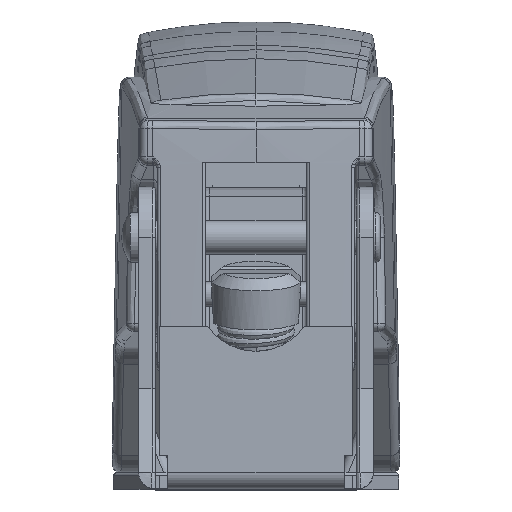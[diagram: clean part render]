
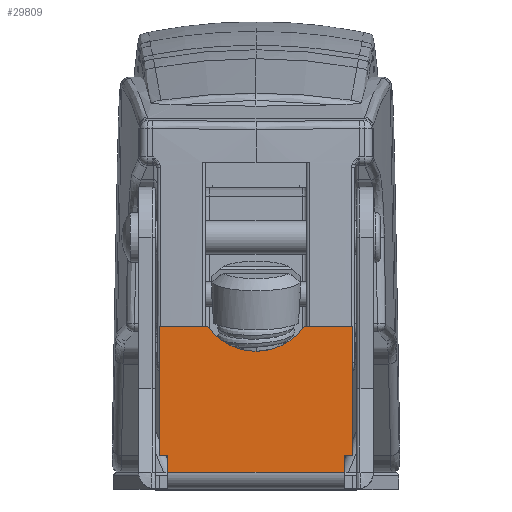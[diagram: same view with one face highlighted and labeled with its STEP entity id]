
A CAD part, top view. The second image highlights one B-rep face of the part: STEP entity #29809.
In plain terms, the highlighted planar face has unit normal (0, 0, 1).
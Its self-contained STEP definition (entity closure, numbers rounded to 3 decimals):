
#26271=DIRECTION('',(-1.,0.,0.));
#26272=VECTOR('',#26271,10.5);
#26273=CARTESIAN_POINT('',(5.25,1.,1.));
#26274=LINE('',#26273,#26272);
#26275=DIRECTION('',(0.,-1.,0.));
#26276=VECTOR('',#26275,1.);
#26277=CARTESIAN_POINT('',(-5.25,2.,1.));
#26278=LINE('',#26277,#26276);
#26279=DIRECTION('',(1.,0.,0.));
#26280=VECTOR('',#26279,0.5);
#26281=CARTESIAN_POINT('',(-5.75,2.,1.));
#26282=LINE('',#26281,#26280);
#26283=DIRECTION('',(0.,-1.,0.));
#26284=VECTOR('',#26283,7.7);
#26285=CARTESIAN_POINT('',(-5.75,9.7,1.));
#26286=LINE('',#26285,#26284);
#26287=DIRECTION('',(-1.,0.,0.));
#26288=VECTOR('',#26287,2.878);
#26289=CARTESIAN_POINT('',(-2.872,9.7,1.));
#26290=LINE('',#26289,#26288);
#26291=CARTESIAN_POINT('',(0.,11.7,1.));
#26292=DIRECTION('',(0.,0.,-1.));
#26293=DIRECTION('',(0.821,-0.571,0.));
#26294=AXIS2_PLACEMENT_3D('',#26291,#26292,#26293);
#26296=DIRECTION('',(-1.,0.,0.));
#26297=VECTOR('',#26296,2.878);
#26298=CARTESIAN_POINT('',(5.75,9.7,1.));
#26299=LINE('',#26298,#26297);
#26300=DIRECTION('',(0.,1.,0.));
#26301=VECTOR('',#26300,7.7);
#26302=CARTESIAN_POINT('',(5.75,2.,1.));
#26303=LINE('',#26302,#26301);
#26304=DIRECTION('',(1.,0.,0.));
#26305=VECTOR('',#26304,0.5);
#26306=CARTESIAN_POINT('',(5.25,2.,1.));
#26307=LINE('',#26306,#26305);
#26308=DIRECTION('',(0.,1.,0.));
#26309=VECTOR('',#26308,1.);
#26310=CARTESIAN_POINT('',(5.25,1.,1.));
#26311=LINE('',#26310,#26309);
#29065=CARTESIAN_POINT('',(2.872,9.7,1.));
#29066=CARTESIAN_POINT('',(-2.872,9.7,1.));
#29067=VERTEX_POINT('',#29065);
#29068=VERTEX_POINT('',#29066);
#29069=CARTESIAN_POINT('',(5.75,9.7,1.));
#29070=VERTEX_POINT('',#29069);
#29071=CARTESIAN_POINT('',(5.75,2.,1.));
#29072=VERTEX_POINT('',#29071);
#29092=CARTESIAN_POINT('',(5.25,1.,1.));
#29093=CARTESIAN_POINT('',(-5.25,1.,1.));
#29094=VERTEX_POINT('',#29092);
#29095=VERTEX_POINT('',#29093);
#29116=CARTESIAN_POINT('',(-5.75,9.7,1.));
#29117=CARTESIAN_POINT('',(-5.75,2.,1.));
#29118=VERTEX_POINT('',#29116);
#29119=VERTEX_POINT('',#29117);
#29293=CARTESIAN_POINT('',(-5.25,2.,1.));
#29294=VERTEX_POINT('',#29293);
#29295=CARTESIAN_POINT('',(5.25,2.,1.));
#29296=VERTEX_POINT('',#29295);
#29782=CARTESIAN_POINT('',(0.,-21.5,1.));
#29783=DIRECTION('',(0.,0.,1.));
#29784=DIRECTION('',(0.,-1.,0.));
#29785=AXIS2_PLACEMENT_3D('',#29782,#29783,#29784);
#29786=PLANE('',#29785);
#29788=ORIENTED_EDGE('',*,*,#29787,.T.);
#29790=ORIENTED_EDGE('',*,*,#29789,.F.);
#29792=ORIENTED_EDGE('',*,*,#29791,.F.);
#29794=ORIENTED_EDGE('',*,*,#29793,.F.);
#29796=ORIENTED_EDGE('',*,*,#29795,.F.);
#29798=ORIENTED_EDGE('',*,*,#29797,.F.);
#29800=ORIENTED_EDGE('',*,*,#29799,.F.);
#29802=ORIENTED_EDGE('',*,*,#29801,.F.);
#29804=ORIENTED_EDGE('',*,*,#29803,.F.);
#29806=ORIENTED_EDGE('',*,*,#29805,.F.);
#29807=EDGE_LOOP('',(#29788,#29790,#29792,#29794,#29796,#29798,#29800,#29802,
#29804,#29806));
#29808=FACE_OUTER_BOUND('',#29807,.F.);
#29809=ADVANCED_FACE('',(#29808),#29786,.T.);
#26295=CIRCLE('',#26294,3.5);
#29787=EDGE_CURVE('',#29094,#29095,#26274,.T.);
#29789=EDGE_CURVE('',#29294,#29095,#26278,.T.);
#29791=EDGE_CURVE('',#29119,#29294,#26282,.T.);
#29793=EDGE_CURVE('',#29118,#29119,#26286,.T.);
#29795=EDGE_CURVE('',#29068,#29118,#26290,.T.);
#29797=EDGE_CURVE('',#29067,#29068,#26295,.T.);
#29799=EDGE_CURVE('',#29070,#29067,#26299,.T.);
#29801=EDGE_CURVE('',#29072,#29070,#26303,.T.);
#29803=EDGE_CURVE('',#29296,#29072,#26307,.T.);
#29805=EDGE_CURVE('',#29094,#29296,#26311,.T.);
